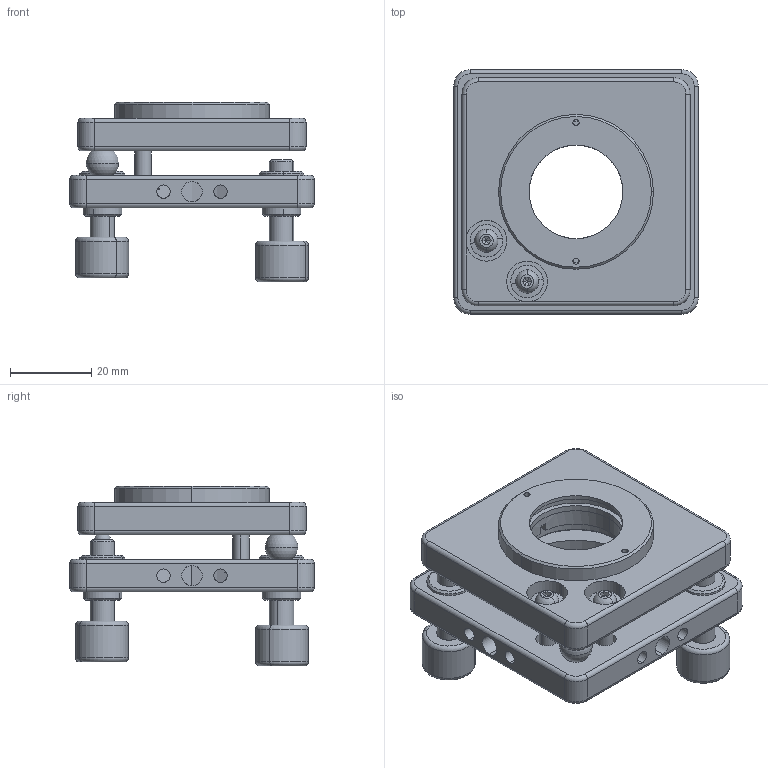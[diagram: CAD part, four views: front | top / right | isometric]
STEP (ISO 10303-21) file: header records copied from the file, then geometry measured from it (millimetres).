
FILE_DESCRIPTION (( 'STEP AP203' ), '1' );
FILE_NAME ('7MM01254謗峎覃誹噩殤.STEP', '2019-10-16T02:45:22', ( '' ), ( '' ), 'SwSTEP 2.0', 'SolidWorks 2014', '' );
FILE_SCHEMA (( 'CONFIG_CONTROL_DESIGN' ));
Length unit declared in the file: millimetre
Products named in the file (1): 7MM01254謗峎覃誹噩殤
Bounding box: 60 x 60 x 44.15 mm (x, y, z)
Surface area: 22170 mm2 (no closed solid volume)
Topology: 0 solids, 38 shells, 280 faces, 698 edges, 439 vertices
Faces by surface type: cylinder 114, plane 90, cone 40, torus 24, sphere 12
Entity records: 8749 total; most frequent: CARTESIAN_POINT 1878, DIRECTION 1591, ORIENTED_EDGE 1202, EDGE_CURVE 684, AXIS2_PLACEMENT_3D 646, VERTEX_POINT 433, CIRCLE 365, EDGE_LOOP 329
